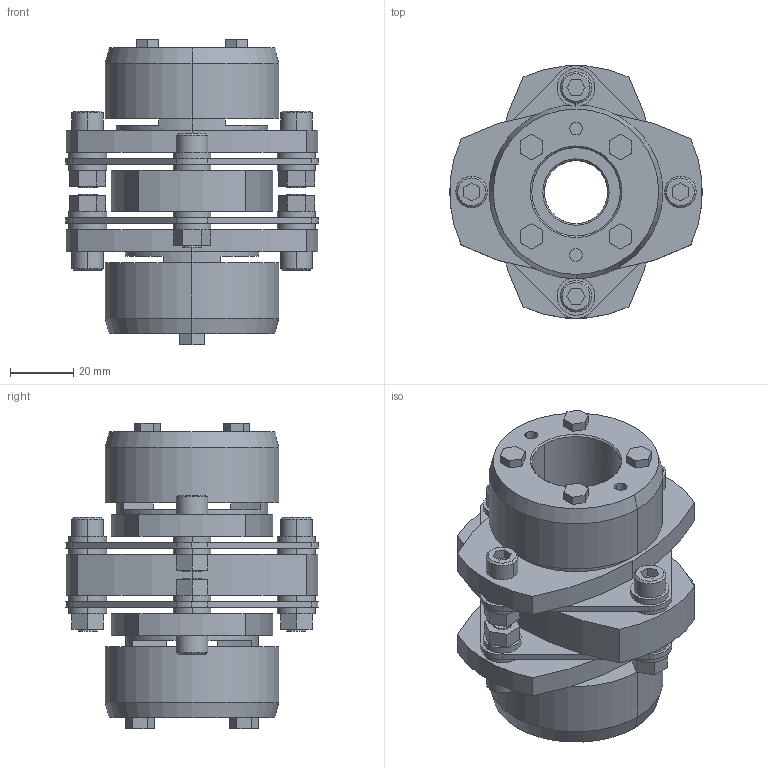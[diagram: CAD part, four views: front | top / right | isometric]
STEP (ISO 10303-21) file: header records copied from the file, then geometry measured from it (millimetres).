
FILE_DESCRIPTION((''),'2;1');
FILE_NAME('LCD-80T7-20×28.stp','2011-09-15T13:39:54',(''),(''),'AutoCAD STEP 2000i','AutoCAD 2000i',', , ');
FILE_SCHEMA(('CONFIG_CONTROL_DESIGN'));
Length unit declared in the file: millimetre
Products named in the file (10): LCD-80T7-19×28; 忣兜1; LC80T7-T028; LC80T7-T024; LC80T7-T022; LC80T7-T019-1; LC80T7-T019; LC80T7-T017-1; LC80T7-T017; LCD80-ITA
Assembly tree (9 placements, depth 2):
  LCD-80T7-19×28
    忣兜1
    LC80T7-T028
    LC80T7-T024
    LC80T7-T022
    LC80T7-T019-1
    LC80T7-T019
    LC80T7-T017-1
    LC80T7-T017
    LCD80-ITA
Bounding box: 80 x 79.95 x 96.8 mm (x, y, z)
Volume: 181647 mm3; surface area: 57609.8 mm2
Topology: 1 solids, 1 shells, 320 faces, 780 edges, 512 vertices
Faces by surface type: plane 176, cylinder 120, cone 24
Entity records: 9705 total; most frequent: DIRECTION 1720, CARTESIAN_POINT 1622, ORIENTED_EDGE 1560, EDGE_CURVE 780, AXIS2_PLACEMENT_3D 610, VERTEX_POINT 512, VECTOR 500, LINE 500
